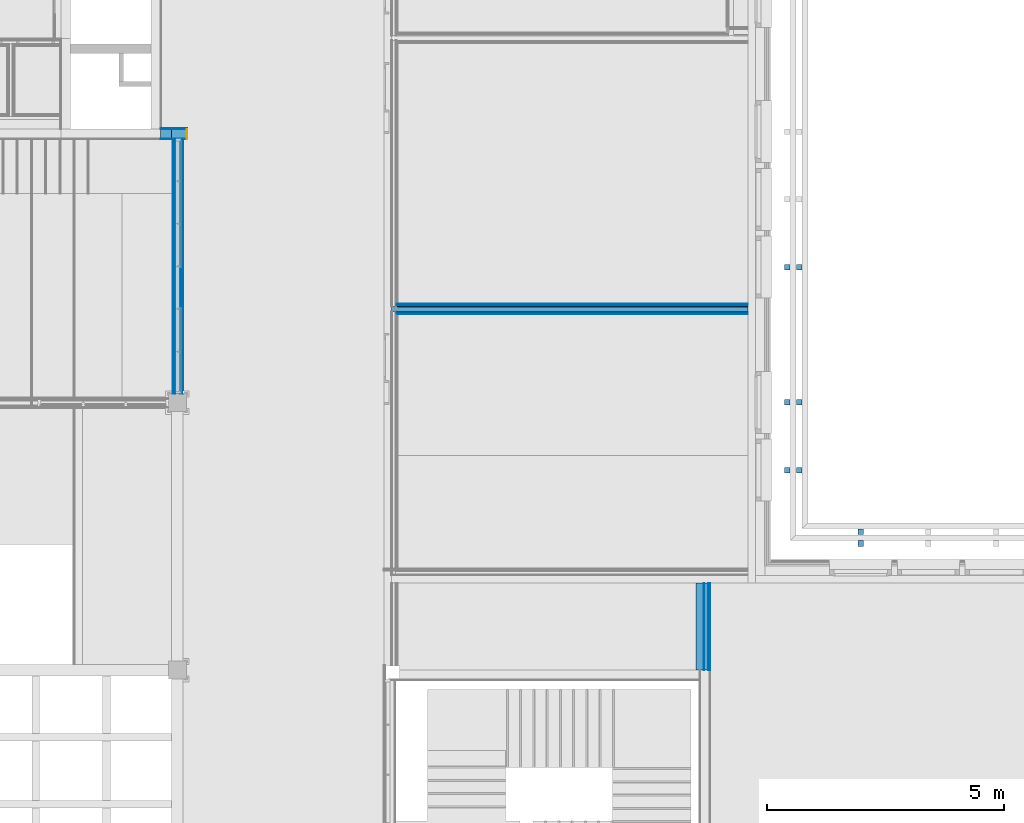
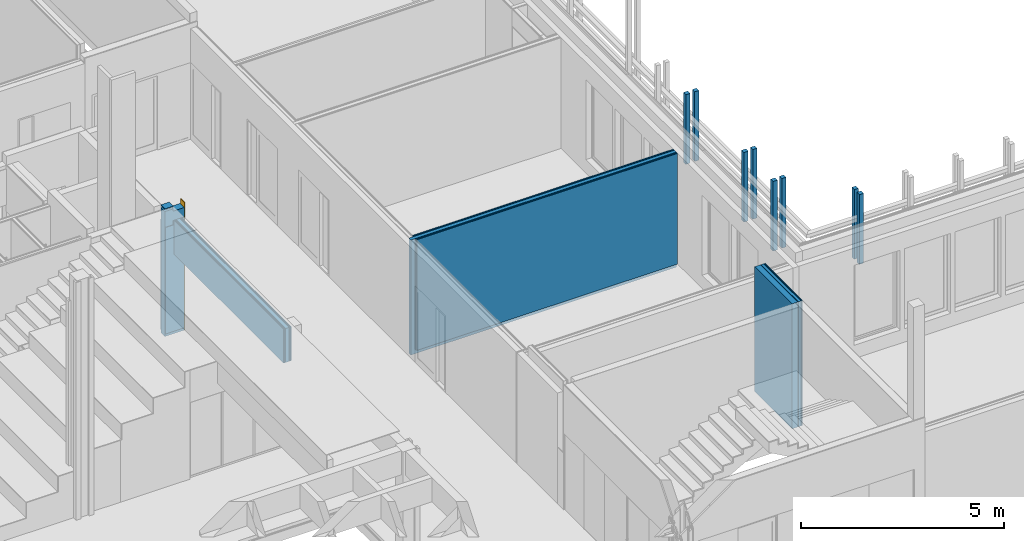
# One storey, part 97 of 139: 28 building element parts, 4 discrete accessories, 1 covering, 2 openings, 4 elements without a shape of their own.
"""IFC2X3 building model written with IfcOpenShell, lengths in millimetres."""

from ifc_helpers import new_model, entity, si_unit, converted_unit, derived_unit, money_unit, direction, frame, origin_with_axes, place, context, subcontext, project, spatial, faceted_brep, material, material_list, type_object, element, fill, aggregate, save


model = new_model("IFC2X3")

# Units and contexts
model_context = context("Model", 3, precision=0.01, world=origin_with_axes(), true_north=direction((0.0, 1.0)))
body_context = subcontext(model_context, "Body", "Model", "MODEL_VIEW")
ifc_project = project(units=[si_unit("LENGTHUNIT", "METRE", prefix="MILLI"), si_unit("AREAUNIT", "SQUARE_METRE"), si_unit("VOLUMEUNIT", "CUBIC_METRE"), converted_unit("PLANEANGLEUNIT", "DEGREE", entity("IfcPlaneAngleMeasure", 0.0174532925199), si_unit("PLANEANGLEUNIT", "RADIAN"), dimensions=[0, 0, 0, 0, 0, 0, 0]), money_unit("EUR"), converted_unit("TIMEUNIT", "Year", entity("IfcTimeMeasure", 31556926.0), si_unit("TIMEUNIT", "SECOND"), dimensions=[0, 0, 1, 0, 0, 0, 0]), si_unit("MASSUNIT", "GRAM", prefix="KILO"), si_unit("THERMODYNAMICTEMPERATUREUNIT", "DEGREE_CELSIUS"), si_unit("LUMINOUSINTENSITYUNIT", "LUMEN"), si_unit("ENERGYUNIT", "JOULE", prefix="MEGA"), derived_unit("THERMALCONDUCTANCEUNIT", [(si_unit("POWERUNIT", "WATT"), 1), (si_unit("LENGTHUNIT", "METRE"), -1), (si_unit("THERMODYNAMICTEMPERATUREUNIT", "KELVIN"), -1)]), derived_unit("SPECIFICHEATCAPACITYUNIT", [(si_unit("ENERGYUNIT", "JOULE"), 1), (si_unit("MASSUNIT", "GRAM", prefix="KILO"), -1), (si_unit("THERMODYNAMICTEMPERATUREUNIT", "KELVIN"), -1)]), derived_unit("MASSDENSITYUNIT", [(si_unit("MASSUNIT", "GRAM", prefix="KILO"), 1), (si_unit("VOLUMEUNIT", "CUBIC_METRE"), -1)])], contexts=[model_context])

# Site, building, storey
site_placement = place(None, origin_with_axes())
site = spatial("IfcSite", under=ifc_project, at=site_placement, Name="Kolde pst 67a", CompositionType="ELEMENT")
building_placement = place(site_placement, origin_with_axes())
building = spatial("IfcBuilding", under=site, at=building_placement, Name="Riigigümnaasium", CompositionType="ELEMENT")
storey_placement = place(building_placement, frame((0.0, 0.0, 4600.0), z_axis=(0.0, 0.0, 1.0), x_axis=(1.0, 0.0, 0.0)))
storey = spatial("IfcBuildingStorey", under=building, at=storey_placement, Name="2. korrus", CompositionType="ELEMENT", Elevation=4600.0)

# Covering
ifc_material_1 = material(Name="_VIIMISTLUSKIHT - viimistlus vastavalt SA osale")
covering_type = type_object("IfcCoveringType", Name="Returned End 25", PredefinedType="NOTDEFINED")
wall_4_placement = place(storey_placement, frame((48439.9854607, 45669.9999598, -80.0), z_axis=(0.0, 0.0, 1.0), x_axis=(-1.0, 0.0, 0.0)))
opening_2_placement = place(wall_4_placement, origin_with_axes())
covering_placement = place(opening_2_placement, frame((-7.5, 0.0, 0.0), z_axis=(0.0, 0.0, 1.0), x_axis=(1.0, 0.0, 0.0)))
covering = element("IfcCovering", 1, at=covering_placement, inside=storey, type_object=covering_type, material=ifc_material_1, Name="Pale", PredefinedType="NOTDEFINED", context=body_context, shape_type="Brep", body=[
    faceted_brep([(7.5, -200.0, 0.0), (22.5, -200.0, 0.0), (22.5, -200.0, 3830.0), (7.5, -200.0, 3830.0), (7.5, 15.0, 0.0), (22.5, 15.0, 0.0), (22.5, 15.0, 3830.0), (7.5, 15.0, 3830.0)], [[[0, 1, 2, 3]], [[4, 5, 1, 0]], [[5, 6, 2, 1]], [[6, 7, 3, 2]], [[7, 4, 0, 3]], [[4, 7, 6, 5]]]),
])

# Discrete accessories
ifc_material_2 = material(Name="_VÄLISVIIMISTLUS - sõrmjätkatud puitprussid 120x115mm, liitekohad vähemärgatavad, Platowood sõrmjätkatud kuusk või samaväärne; eeltöödeldud tuletõkkevõõbaga, tuletundlikkus B-s1, d0, Woodsafe Exterior WFX™ või samaväärne; kinnitused vastavalt EK osale")
ifc_material_list = material_list([ifc_material_2, ifc_material_2])
discrete_accessory_type = type_object("IfcDiscreteAccessoryType", Name="1+paiksekaitse 3 370 x 115")
for number, where, z_axis, x_axis in (
    (2, (62605.0448221, 37771.9921115, 2150.0), (0.0, 0.0, 1.0), (0.0, -1.0, 0.0)),
    (3, (61771.9937454, 43015.0013897, 2150.0), (0.0, 0.0, 1.0), (-1.0, 0.0, 0.0)),
    (4, (61771.9937454, 40155.0015421, 2150.0), (0.0, 0.0, 1.0), (-1.0, 0.0, 0.0)),
    (5, (61771.9937454, 38725.0015421, 2150.0), (0.0, 0.0, 1.0), (-1.0, 0.0, 0.0)),
):
    element("IfcDiscreteAccessory", number, at=place(storey_placement, frame(where, z_axis=z_axis, x_axis=x_axis)), inside=storey, type_object=discrete_accessory_type, material=ifc_material_list, Name="Päikesevarjestus", context=body_context, shape_type="Brep", body=[
        faceted_brep([(467.0, 117.5, 0.0), (347.0, 117.5, 0.0), (347.0, 117.5, 2090.0), (467.0, 117.5, 2090.0), (467.0, 2.5, 0.0), (347.0, 2.5, 0.0), (347.0, 2.5, 2090.0), (467.0, 2.5, 2090.0)], [[[0, 1, 2, 3]], [[0, 4, 5, 1]], [[1, 5, 6, 2]], [[3, 2, 6, 7]], [[4, 0, 3, 7]], [[5, 4, 7, 6]]]),
        faceted_brep([(717.0, 117.5, 0.0), (597.0, 117.5, 0.0), (597.0, 117.5, 2090.0), (717.0, 117.5, 2090.0), (717.0, 2.5, 0.0), (597.0, 2.5, 0.0), (597.0, 2.5, 2090.0), (717.0, 2.5, 2090.0)], [[[0, 1, 2, 3]], [[0, 4, 5, 1]], [[1, 5, 6, 2]], [[3, 2, 6, 7]], [[4, 0, 3, 7]], [[5, 4, 7, 6]]]),
    ])

# Wall, building element parts
wall_type_1 = type_object("IfcWallType", Name="SS-CLT-16/1_vill75+krohv 52 dB 300", PredefinedType="NOTDEFINED")
wall_1_placement = place(storey_placement, frame((59190.0132275, 36279.9996998, 0.0), z_axis=(0.0, 0.0, 1.0), x_axis=(0.0, -1.0, 0.0)))
wall_1 = element("IfcWall", 6, at=wall_1_placement, inside=storey, type_object=wall_type_1, Name="Sisesein")
building_element_part_1_placement = place(wall_1_placement, origin_with_axes())
building_element_part_1 = element("IfcBuildingElementPart", 7, at=building_element_part_1_placement, material=ifc_material_1, Name="_VIIMISTLUSKIHT - viimistlus vastavalt SA osale", context=body_context, shape_type="Brep", body=[
    faceted_brep([(1839.99972686, 300.0, 0.0), (1839.99972686, 290.0, 0.0), (0.0, 290.0, 0.0), (0.0, 300.0, 0.0), (1839.99972686, 300.0, 3750.0), (1839.99972686, 290.0, 3750.0), (0.0, 290.0, 3750.0), (0.0, 300.0, 3750.0)], [[[0, 1, 2, 3]], [[0, 4, 5, 1]], [[1, 5, 6, 2]], [[3, 2, 6, 7]], [[4, 0, 3, 7]], [[5, 4, 7, 6]]]),
])
ifc_material_3 = material(Name="_PLAATMATERJAL - tuletõkkekipsplaat, Knauf Red GKF või samaväärne")
building_element_part_2_placement = place(wall_1_placement, origin_with_axes())
building_element_part_2 = element("IfcBuildingElementPart", 8, at=building_element_part_2_placement, material=ifc_material_3, Name="_PLAATMATERJAL - tuletõkkekipsplaat, Knauf Red GKF või samaväärne", context=body_context, shape_type="Brep", body=[
    faceted_brep([(1839.99972686, 290.0, 0.0), (1839.99972686, 275.0, 0.0), (0.0, 275.0, 0.0), (0.0, 290.0, 0.0), (1839.99972686, 290.0, 3750.0), (1839.99972686, 275.0, 3750.0), (0.0, 275.0, 3750.0), (0.0, 290.0, 3750.0)], [[[0, 1, 2, 3]], [[0, 4, 5, 1]], [[1, 5, 6, 2]], [[3, 2, 6, 7]], [[4, 0, 3, 7]], [[5, 4, 7, 6]]]),
])
building_element_part_3_placement = place(wall_1_placement, origin_with_axes())
building_element_part_3 = element("IfcBuildingElementPart", 9, at=building_element_part_3_placement, material=ifc_material_3, Name="_PLAATMATERJAL - tuletõkkekipsplaat, Knauf Red GKF või samaväärne", context=body_context, shape_type="Brep", body=[
    faceted_brep([(1839.99972686, 275.0, 0.0), (1839.99972686, 260.0, 0.0), (0.0, 260.0, 0.0), (0.0, 275.0, 0.0), (1839.99972686, 275.0, 3750.0), (1839.99972686, 260.0, 3750.0), (0.0, 260.0, 3750.0), (0.0, 275.0, 3750.0)], [[[0, 1, 2, 3]], [[0, 4, 5, 1]], [[1, 5, 6, 2]], [[3, 2, 6, 7]], [[4, 0, 3, 7]], [[5, 4, 7, 6]]]),
])
ifc_material_4 = material(Name="_PLAATMATERJAL - OSB3 plaat")
building_element_part_4_placement = place(wall_1_placement, origin_with_axes())
building_element_part_4 = element("IfcBuildingElementPart", 10, at=building_element_part_4_placement, material=ifc_material_4, Name="_PLAATMATERJAL - OSB3 plaat", context=body_context, shape_type="Brep", body=[
    faceted_brep([(1839.99972686, 260.0, 0.0), (1839.99972686, 250.0, 0.0), (0.0, 250.0, 0.0), (0.0, 260.0, 0.0), (1839.99972686, 260.0, 3750.0), (1839.99972686, 250.0, 3750.0), (0.0, 250.0, 3750.0), (0.0, 260.0, 3750.0)], [[[0, 1, 2, 3]], [[0, 4, 5, 1]], [[1, 5, 6, 2]], [[3, 2, 6, 7]], [[4, 0, 3, 7]], [[5, 4, 7, 6]]]),
])
ifc_material_5 = material(Name="_KARKASS - metallkarkass CW 75/50/06 ja UW 75/40/06, samm 600, vahel mineraalvill, helineeldetegur αw = 1.0,  ISOVER ACOUSTIC 75mm või samaväärne")
building_element_part_5_placement = place(wall_1_placement, origin_with_axes())
building_element_part_5 = element("IfcBuildingElementPart", 11, at=building_element_part_5_placement, material=ifc_material_5, Name="_KARKASS - metallkarkass CW 75/50/06 ja UW 75/40/06, samm 600, vahel mineraalvill, helineeldetegur αw = 1.0,  ISOVER ACOUSTIC 75mm või samaväärne", context=body_context, shape_type="Brep", body=[
    faceted_brep([(1839.99972686, 250.0, 0.0), (1839.99972686, 175.0, 0.0), (0.0, 175.0, 0.0), (0.0, 250.0, 0.0), (1839.99972686, 250.0, 3750.0), (1839.99972686, 175.0, 3750.0), (0.0, 175.0, 3750.0), (0.0, 250.0, 3750.0)], [[[0, 1, 2, 3]], [[0, 4, 5, 1]], [[1, 5, 6, 2]], [[3, 2, 6, 7]], [[4, 0, 3, 7]], [[5, 4, 7, 6]]]),
])
ifc_material_6 = material(Name="_ÕHKVAHE")
building_element_part_6_placement = place(wall_1_placement, origin_with_axes())
building_element_part_6 = element("IfcBuildingElementPart", 12, at=building_element_part_6_placement, material=ifc_material_6, Name="_ÕHKVAHE", context=body_context, shape_type="Brep", body=[
    faceted_brep([(1839.99972686, 175.0, 0.0), (1839.99972686, 160.0, 0.0), (0.0, 160.0, 0.0), (0.0, 175.0, 0.0), (1839.99972686, 175.0, 3750.0), (1839.99972686, 160.0, 3750.0), (0.0, 160.0, 3750.0), (0.0, 175.0, 3750.0)], [[[0, 1, 2, 3]], [[0, 4, 5, 1]], [[1, 5, 6, 2]], [[3, 2, 6, 7]], [[4, 0, 3, 7]], [[5, 4, 7, 6]]]),
])
ifc_material_7 = material(Name="_KANDETARIND - CLT ristkihtliimpuit vastavalt EK osale, CLT paigaldusvuugid teibitakse ROTHOBLAAS teibiga")
building_element_part_7_placement = place(wall_1_placement, origin_with_axes())
building_element_part_7 = element("IfcBuildingElementPart", 13, at=building_element_part_7_placement, material=ifc_material_7, Name="_KANDETARIND - CLT ristkihtliimpuit vastavalt EK osale, CLT paigaldusvuugid teibitakse ROTHOBLAAS teibiga", context=body_context, shape_type="Brep", body=[
    faceted_brep([(0.0, 160.0, 0.0), (1839.99972686, 160.0, 0.0), (1839.99972686, 0.0, 0.0), (0.0, 0.0, 0.0), (0.0, 160.0, 3750.0), (1839.99972686, 160.0, 3750.0), (1839.99972686, 0.0, 3750.0), (0.0, 0.0, 3750.0)], [[[0, 1, 2, 3]], [[4, 5, 1, 0]], [[2, 1, 5, 6]], [[3, 2, 6, 7]], [[4, 0, 3, 7]], [[7, 6, 5, 4]]]),
])
aggregate(wall_1, [building_element_part_1, building_element_part_2, building_element_part_3, building_element_part_4, building_element_part_5, building_element_part_6, building_element_part_7])

wall_type_2 = type_object("IfcWallType", Name="SS-PK-10/4_vill100+2värv distantsliistudega 220", PredefinedType="NOTDEFINED")
wall_2_placement = place(storey_placement, frame((52589.9941222, 42180.2910276, -130.0), z_axis=(0.0, 0.0, 1.0), x_axis=(1.0, 0.0, 0.0)))
wall_2 = element("IfcWall", 14, at=wall_2_placement, inside=storey, type_object=wall_type_2, Name="Sisesein")
building_element_part_8_placement = place(wall_2_placement, origin_with_axes())
building_element_part_8 = element("IfcBuildingElementPart", 15, at=building_element_part_8_placement, material=ifc_material_1, Name="_VIIMISTLUSKIHT - viimistlus vastavalt SA osale", context=body_context, shape_type="Brep", body=[
    faceted_brep([(300.0, 0.0, 3450.0), (7690.0, 0.0, 3450.0), (7690.0, 0.0, 130.0), (300.0, 0.0, 130.0), (7690.0, -5.0, 3450.0), (300.0, -5.0, 3450.0), (7690.0, -5.0, 130.0), (300.0, -5.0, 130.0)], [[[0, 1, 2, 3]], [[4, 1, 0, 5]], [[1, 4, 6, 2]], [[3, 2, 6, 7]], [[5, 0, 3, 7]], [[4, 5, 7, 6]]]),
])
building_element_part_9_placement = place(wall_2_placement, origin_with_axes())
building_element_part_9 = element("IfcBuildingElementPart", 16, at=building_element_part_9_placement, material=ifc_material_3, Name="_PLAATMATERJAL - tuletõkkekipsplaat, Knauf Red GKF või samaväärne", context=body_context, shape_type="Brep", body=[
    faceted_brep([(290.0, -5.0, 3450.0), (7690.0, -5.0, 3450.0), (7690.0, -5.0, 127.0), (290.0, -5.0, 127.0), (7690.0, -20.0, 3450.0), (290.0, -20.0, 3450.0), (7690.0, -20.0, 127.0), (290.0, -20.0, 127.0)], [[[0, 1, 2, 3]], [[4, 1, 0, 5]], [[1, 4, 6, 2]], [[3, 2, 6, 7]], [[5, 0, 3, 7]], [[4, 5, 7, 6]]]),
])
building_element_part_10_placement = place(wall_2_placement, origin_with_axes())
building_element_part_10 = element("IfcBuildingElementPart", 17, at=building_element_part_10_placement, material=ifc_material_4, Name="_PLAATMATERJAL - OSB3 plaat", context=body_context, shape_type="Brep", body=[
    faceted_brep([(275.0, -20.0, 3450.0), (7690.0, -20.0, 3450.0), (7690.0, -20.0, 127.0), (275.0, -20.0, 127.0), (7690.0, -35.0, 3450.0), (275.0, -35.0, 3450.0), (7690.0, -35.0, 127.0), (275.0, -35.0, 127.0)], [[[0, 1, 2, 3]], [[4, 1, 0, 5]], [[1, 4, 6, 2]], [[3, 2, 6, 7]], [[5, 0, 3, 7]], [[4, 5, 7, 6]]]),
])
ifc_material_8 = material(Name="_KARKASS- distantasliist")
building_element_part_11_placement = place(wall_2_placement, origin_with_axes())
building_element_part_11 = element("IfcBuildingElementPart", 18, at=building_element_part_11_placement, material=ifc_material_8, Name="_KARKASS- distantasliist", context=body_context, shape_type="Brep", body=[
    faceted_brep([(275.0, -35.0, 3450.0), (7690.0, -35.0, 3450.0), (7690.0, -35.0, 127.0), (275.0, -35.0, 127.0), (7690.0, -60.0, 3450.0), (275.0, -60.0, 3450.0), (7690.0, -60.0, 127.0), (275.0, -60.0, 127.0)], [[[0, 1, 2, 3]], [[4, 1, 0, 5]], [[1, 4, 6, 2]], [[3, 2, 6, 7]], [[5, 0, 3, 7]], [[4, 5, 7, 6]]]),
])
ifc_material_9 = material(Name="_KARKASS - puitpruss 100x50mm vertikaalne, samm 600mm, vahel mineraalvill, helineeldetegur αw = 1.0, ISOVER ACOUSTIC 100mm või samaväärne")
building_element_part_12_placement = place(wall_2_placement, origin_with_axes())
building_element_part_12 = element("IfcBuildingElementPart", 19, at=building_element_part_12_placement, material=ifc_material_9, Name="_KARKASS - puitpruss 100x50mm vertikaalne, samm 600mm, vahel mineraalvill, helineeldetegur αw = 1.0, ISOVER ACOUSTIC 100mm või samaväärne", context=body_context, shape_type="Brep", body=[
    faceted_brep([(160.0, -60.0, 3450.0), (7690.0, -60.0, 3450.0), (7690.0, -60.0, 0.0), (160.0, -60.0, 0.0), (7690.0, -160.0, 3450.0), (160.0, -160.0, 3450.0), (7690.0, -160.0, 0.0), (160.0, -160.0, 0.0)], [[[0, 1, 2, 3]], [[4, 1, 0, 5]], [[1, 4, 6, 2]], [[2, 6, 7, 3]], [[5, 0, 3, 7]], [[4, 5, 7, 6]]]),
])
building_element_part_13_placement = place(wall_2_placement, origin_with_axes())
building_element_part_13 = element("IfcBuildingElementPart", 20, at=building_element_part_13_placement, material=ifc_material_8, Name="_KARKASS- distantasliist", context=body_context, shape_type="Brep", body=[
    faceted_brep([(275.0, -160.0, 3450.0), (7690.0, -160.0, 3450.0), (7690.0, -160.0, 127.0), (275.0, -160.0, 127.0), (7690.0, -185.0, 3450.0), (275.0, -185.0, 3450.0), (7690.0, -185.0, 127.0), (275.0, -185.0, 127.0)], [[[0, 1, 2, 3]], [[4, 1, 0, 5]], [[1, 4, 6, 2]], [[3, 2, 6, 7]], [[5, 0, 3, 7]], [[4, 5, 7, 6]]]),
])
building_element_part_14_placement = place(wall_2_placement, origin_with_axes())
building_element_part_14 = element("IfcBuildingElementPart", 21, at=building_element_part_14_placement, material=ifc_material_4, Name="_PLAATMATERJAL - OSB3 plaat", context=body_context, shape_type="Brep", body=[
    faceted_brep([(275.0, -185.0, 3450.0), (7690.0, -185.0, 3450.0), (7690.0, -185.0, 127.0), (275.0, -185.0, 127.0), (7690.0, -200.0, 3450.0), (275.0, -200.0, 3450.0), (7690.0, -200.0, 127.0), (275.0, -200.0, 127.0)], [[[0, 1, 2, 3]], [[4, 1, 0, 5]], [[1, 4, 6, 2]], [[3, 2, 6, 7]], [[5, 0, 3, 7]], [[4, 5, 7, 6]]]),
])
building_element_part_15_placement = place(wall_2_placement, origin_with_axes())
building_element_part_15 = element("IfcBuildingElementPart", 22, at=building_element_part_15_placement, material=ifc_material_3, Name="_PLAATMATERJAL - tuletõkkekipsplaat, Knauf Red GKF või samaväärne", context=body_context, shape_type="Brep", body=[
    faceted_brep([(290.0, -200.0, 3450.0), (7690.0, -200.0, 3450.0), (7690.0, -200.0, 127.0), (290.0, -200.0, 127.0), (7690.0, -215.0, 3450.0), (290.0, -215.0, 3450.0), (7690.0, -215.0, 127.0), (290.0, -215.0, 127.0)], [[[0, 1, 2, 3]], [[4, 1, 0, 5]], [[1, 4, 6, 2]], [[3, 2, 6, 7]], [[5, 0, 3, 7]], [[4, 5, 7, 6]]]),
])
building_element_part_16_placement = place(wall_2_placement, origin_with_axes())
building_element_part_16 = element("IfcBuildingElementPart", 23, at=building_element_part_16_placement, material=ifc_material_1, Name="_VIIMISTLUSKIHT - viimistlus vastavalt SA osale", context=body_context, shape_type="Brep", body=[
    faceted_brep([(300.0, -215.0, 3450.0), (7690.0, -215.0, 3450.0), (7690.0, -215.0, 130.0), (300.0, -215.0, 130.0), (7690.0, -220.0, 3450.0), (300.0, -220.0, 3450.0), (7690.0, -220.0, 130.0), (300.0, -220.0, 130.0)], [[[0, 1, 2, 3]], [[4, 1, 0, 5]], [[1, 4, 6, 2]], [[3, 2, 6, 7]], [[5, 0, 3, 7]], [[4, 5, 7, 6]]]),
])
aggregate(wall_2, [building_element_part_8, building_element_part_9, building_element_part_10, building_element_part_11, building_element_part_12, building_element_part_13, building_element_part_14, building_element_part_15, building_element_part_16])

# Wall, opening, building element parts
wall_type_3 = type_object("IfcWallType", Name="SS-PK-10/1_vill100+2dold 220", PredefinedType="NOTDEFINED")
wall_3_placement = place(storey_placement, frame((48129.9854632, 45669.9999531, 2300.0), z_axis=(0.0, 0.0, 1.0), x_axis=(0.0, -1.0, 0.0)))
wall_3 = element("IfcWall", 24, at=wall_3_placement, inside=storey, type_object=wall_type_3, Name="Sisesein")
opening_1_placement = place(wall_3_placement, frame((2699.99993534, 0.0, -2300.0), z_axis=(0.0, 0.0, 1.0), x_axis=(1.0, 0.0, 0.0)))
element("IfcOpeningElement", 25, at=opening_1_placement, cuts=wall_3, Name="Ava", context=body_context, shape_type="Brep", body=[
    faceted_brep([(2690.00010836, 440.0, 0.0), (2690.00010836, 440.0, 2300.0), (2690.00010836, -220.0, 2300.0), (2690.00010836, -220.0, 0.0), (-2690.00010836, 440.0, 0.0), (-2690.00010836, 440.0, 2300.0), (-2690.00010836, -220.0, 2300.0), (-2690.00010836, -220.0, 0.0)], [[[0, 1, 2, 3]], [[0, 4, 5, 1]], [[1, 5, 6, 2]], [[3, 2, 6, 7]], [[4, 0, 3, 7]], [[5, 4, 7, 6]]]),
])
ifc_material_10 = material(Name="_VIIMISTLUSKIHT - Dold plaat vastavalt SA osale")
building_element_part_17_placement = place(wall_3_placement, origin_with_axes())
building_element_part_17 = element("IfcBuildingElementPart", 26, at=building_element_part_17_placement, material=ifc_material_10, Name="_VIIMISTLUSKIHT - Dold plaat vastavalt SA osale", context=body_context, shape_type="Brep", body=[
    faceted_brep([(-6.78114275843e-06, 200.0, 1020.0), (-6.78114275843e-06, 220.0, 1020.0), (-6.78114275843e-06, 220.0, 0.0), (-6.78114275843e-06, 200.0, 0.0), (5390.00004306, 220.0, 1020.0), (5390.00004306, 200.0, 1020.0), (5390.00004306, 220.0, 0.0), (5390.00004306, 200.0, 0.0)], [[[0, 1, 2, 3]], [[4, 1, 0, 5]], [[1, 4, 6, 2]], [[7, 3, 2, 6]], [[5, 0, 3, 7]], [[4, 5, 7, 6]]]),
])
ifc_material_11 = material(Name="_KARKASS - eriprofiilkinnitus vastavalt sisemisele plaatviimistlusele")
building_element_part_18_placement = place(wall_3_placement, origin_with_axes())
building_element_part_18 = element("IfcBuildingElementPart", 27, at=building_element_part_18_placement, material=ifc_material_11, Name="_KARKASS - eriprofiilkinnitus vastavalt sisemisele plaatviimistlusele", context=body_context, shape_type="Brep", body=[
    faceted_brep([(-6.78114275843e-06, 190.0, 1020.0), (-6.78114275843e-06, 200.0, 1020.0), (-6.78114275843e-06, 200.0, 0.0), (-6.78114275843e-06, 190.0, 0.0), (5390.00004306, 200.0, 1020.0), (5390.00004306, 190.0, 1020.0), (5390.00004306, 200.0, 0.0), (5390.00004306, 190.0, 0.0)], [[[0, 1, 2, 3]], [[4, 1, 0, 5]], [[1, 4, 6, 2]], [[7, 3, 2, 6]], [[5, 0, 3, 7]], [[4, 5, 7, 6]]]),
])
building_element_part_19_placement = place(wall_3_placement, origin_with_axes())
building_element_part_19 = element("IfcBuildingElementPart", 28, at=building_element_part_19_placement, material=ifc_material_3, Name="_PLAATMATERJAL - tuletõkkekipsplaat, Knauf Red GKF või samaväärne", context=body_context, shape_type="Brep", body=[
    faceted_brep([(-6.78114275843e-06, 175.0, 1020.0), (-6.78114275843e-06, 190.0, 1020.0), (-6.78114275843e-06, 190.0, 0.0), (-6.78114275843e-06, 175.0, 0.0), (5390.00004306, 190.0, 1020.0), (5390.00004306, 175.0, 1020.0), (5390.00004306, 190.0, 0.0), (5390.00004306, 175.0, 0.0)], [[[0, 1, 2, 3]], [[4, 1, 0, 5]], [[1, 4, 6, 2]], [[7, 3, 2, 6]], [[5, 0, 3, 7]], [[4, 5, 7, 6]]]),
])
building_element_part_20_placement = place(wall_3_placement, origin_with_axes())
building_element_part_20 = element("IfcBuildingElementPart", 29, at=building_element_part_20_placement, material=ifc_material_3, Name="_PLAATMATERJAL - tuletõkkekipsplaat, Knauf Red GKF või samaväärne", context=body_context, shape_type="Brep", body=[
    faceted_brep([(-6.78114275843e-06, 160.0, 1020.0), (-6.78114275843e-06, 175.0, 1020.0), (-6.78114275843e-06, 175.0, 0.0), (-6.78114275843e-06, 160.0, 0.0), (5390.00004306, 175.0, 1020.0), (5390.00004306, 160.0, 1020.0), (5390.00004306, 175.0, 0.0), (5390.00004306, 160.0, 0.0)], [[[0, 1, 2, 3]], [[4, 1, 0, 5]], [[1, 4, 6, 2]], [[7, 3, 2, 6]], [[5, 0, 3, 7]], [[4, 5, 7, 6]]]),
])
building_element_part_21_placement = place(wall_3_placement, origin_with_axes())
building_element_part_21 = element("IfcBuildingElementPart", 30, at=building_element_part_21_placement, material=ifc_material_9, Name="_KARKASS - puitpruss 100x50mm vertikaalne, samm 600mm, vahel mineraalvill, helineeldetegur αw = 1.0, ISOVER ACOUSTIC 100mm või samaväärne", context=body_context, shape_type="Brep", body=[
    faceted_brep([(-6.78114275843e-06, 60.0, 1020.0), (-6.78114275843e-06, 160.0, 1020.0), (-6.78114275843e-06, 160.0, 0.0), (-6.78114275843e-06, 60.0, 0.0), (5390.00004306, 160.0, 1020.0), (5390.00004306, 60.0, 1020.0), (5390.00004306, 160.0, 0.0), (5390.00004306, 60.0, 0.0)], [[[0, 1, 2, 3]], [[4, 1, 0, 5]], [[1, 4, 6, 2]], [[7, 3, 2, 6]], [[5, 0, 3, 7]], [[4, 5, 7, 6]]]),
])
building_element_part_22_placement = place(wall_3_placement, origin_with_axes())
building_element_part_22 = element("IfcBuildingElementPart", 31, at=building_element_part_22_placement, material=ifc_material_3, Name="_PLAATMATERJAL - tuletõkkekipsplaat, Knauf Red GKF või samaväärne", context=body_context, shape_type="Brep", body=[
    faceted_brep([(-6.78114275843e-06, 45.0, 1020.0), (-6.78114275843e-06, 60.0, 1020.0), (-6.78114275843e-06, 60.0, 0.0), (-6.78114275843e-06, 45.0, 0.0), (5390.00004306, 60.0, 1020.0), (5390.00004306, 45.0, 1020.0), (5390.00004306, 60.0, 0.0), (5390.00004306, 45.0, 0.0)], [[[0, 1, 2, 3]], [[4, 1, 0, 5]], [[1, 4, 6, 2]], [[7, 3, 2, 6]], [[5, 0, 3, 7]], [[4, 5, 7, 6]]]),
])
building_element_part_23_placement = place(wall_3_placement, origin_with_axes())
building_element_part_23 = element("IfcBuildingElementPart", 32, at=building_element_part_23_placement, material=ifc_material_3, Name="_PLAATMATERJAL - tuletõkkekipsplaat, Knauf Red GKF või samaväärne", context=body_context, shape_type="Brep", body=[
    faceted_brep([(-6.78114275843e-06, 30.0, 1020.0), (-6.78114275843e-06, 45.0, 1020.0), (-6.78114275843e-06, 45.0, 0.0), (-6.78114275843e-06, 30.0, 0.0), (5390.00004306, 45.0, 1020.0), (5390.00004306, 30.0, 1020.0), (5390.00004306, 45.0, 0.0), (5390.00004306, 30.0, 0.0)], [[[0, 1, 2, 3]], [[4, 1, 0, 5]], [[1, 4, 6, 2]], [[7, 3, 2, 6]], [[5, 0, 3, 7]], [[4, 5, 7, 6]]]),
])
building_element_part_24_placement = place(wall_3_placement, origin_with_axes())
building_element_part_24 = element("IfcBuildingElementPart", 33, at=building_element_part_24_placement, material=ifc_material_11, Name="_KARKASS - eriprofiilkinnitus vastavalt sisemisele plaatviimistlusele", context=body_context, shape_type="Brep", body=[
    faceted_brep([(-6.78114275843e-06, 20.0, 1020.0), (-6.78114275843e-06, 30.0, 1020.0), (-6.78114275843e-06, 30.0, 0.0), (-6.78114275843e-06, 20.0, 0.0), (5390.00004306, 30.0, 1020.0), (5390.00004306, 20.0, 1020.0), (5390.00004306, 30.0, 0.0), (5390.00004306, 20.0, 0.0)], [[[0, 1, 2, 3]], [[4, 1, 0, 5]], [[1, 4, 6, 2]], [[7, 3, 2, 6]], [[5, 0, 3, 7]], [[4, 5, 7, 6]]]),
])
building_element_part_25_placement = place(wall_3_placement, origin_with_axes())
building_element_part_25 = element("IfcBuildingElementPart", 34, at=building_element_part_25_placement, material=ifc_material_10, Name="_VIIMISTLUSKIHT - Dold plaat vastavalt SA osale", context=body_context, shape_type="Brep", body=[
    faceted_brep([(-6.78114275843e-06, 0.0, 1020.0), (-6.78114275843e-06, 20.0, 1020.0), (-6.78114275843e-06, 20.0, 0.0), (-6.78114275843e-06, 0.0, 0.0), (5390.00004306, 20.0, 1020.0), (5390.00004306, 0.0, 1020.0), (5390.00004306, 20.0, 0.0), (5390.00004306, 0.0, 0.0)], [[[0, 1, 2, 3]], [[4, 1, 0, 5]], [[1, 4, 6, 2]], [[7, 3, 2, 6]], [[5, 0, 3, 7]], [[4, 5, 7, 6]]]),
])
aggregate(wall_3, [building_element_part_17, building_element_part_18, building_element_part_19, building_element_part_20, building_element_part_21, building_element_part_22, building_element_part_23, building_element_part_24, building_element_part_25])

# Wall, opening
wall_type_4 = type_object("IfcWallType", Name="SS-RB-20/2_+2 plaat 230", PredefinedType="NOTDEFINED")
wall_4 = element("IfcWall", 35, at=wall_4_placement, inside=storey, type_object=wall_type_4, Name="Sisesein")
opening_2 = element("IfcOpeningElement", 36, at=opening_2_placement, cuts=wall_4, Name="Pale", context=body_context, shape_type="Brep", body=[
    faceted_brep([(15.0, 15.0, 0.0), (0.0, 15.0, 0.0), (0.0, 15.0, 3830.0), (15.0, 15.0, 3830.0), (15.0, -200.0, 0.0), (0.0, -200.0, 0.0), (0.0, -200.0, 3830.0), (15.0, -200.0, 3830.0)], [[[0, 1, 2, 3]], [[0, 4, 5, 1]], [[1, 5, 6, 2]], [[3, 2, 6, 7]], [[4, 0, 3, 7]], [[5, 4, 7, 6]]]),
])

fill(opening_2, covering)

# Building element part
building_element_part_26_placement = place(wall_4_placement, origin_with_axes())
building_element_part_26 = element("IfcBuildingElementPart", 37, at=building_element_part_26_placement, material=ifc_material_1, Name="_VIIMISTLUSKIHT - viimistlus vastavalt SA osale", context=body_context, shape_type="Brep", body=[
    faceted_brep([(15.0, 15.0, 3400.0), (15.0, 0.0, 3400.0), (89.9999974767, 0.0, 3400.0), (89.9999974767, 15.0, 3400.0), (15.0, 0.0, 80.0), (15.0, 15.0, 80.0), (565.0, 0.0, 80.0), (565.0, 0.0, 3275.0), (330.000002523, 0.0, 3275.0), (330.000002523, 0.0, 3400.0), (309.999997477, 0.0, 3400.0), (309.999997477, 0.0, 2380.0), (89.9999974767, 0.0, 2380.0), (89.9999974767, 15.0, 2380.0), (309.999997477, 15.0, 2380.0), (309.999997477, 15.0, 3400.0), (330.000002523, 15.0, 3400.0), (330.000002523, 15.0, 3275.0), (565.0, 15.0, 3275.0), (565.0, 15.0, 80.0)], [[[0, 1, 2, 3]], [[4, 1, 0, 5]], [[1, 4, 6, 7, 8, 9, 10, 11, 12, 2]], [[2, 12, 13, 3]], [[5, 0, 3, 13, 14, 15, 16, 17, 18, 19]], [[4, 5, 19, 6]], [[7, 6, 19, 18]], [[7, 18, 17, 8]], [[9, 8, 17, 16]], [[10, 9, 16, 15]], [[15, 14, 11, 10]], [[13, 12, 11, 14]]]),
])

ifc_material_12 = material(Name="_KANDETARIND - monteeritav raudbetoon vastavalt EK osale")
building_element_part_27_placement = place(wall_4_placement, origin_with_axes())
building_element_part_27 = element("IfcBuildingElementPart", 38, at=building_element_part_27_placement, material=ifc_material_12, Name="_KANDETARIND - monteeritav raudbetoon vastavalt EK osale", context=body_context, shape_type="Brep", body=[
    faceted_brep([(15.0, 0.0, 3680.0), (15.0, -200.0, 3680.0), (330.000002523, -200.0, 3680.0), (330.000002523, 0.0, 3680.0), (15.0, -200.0, 0.0), (15.0, 0.0, 0.0), (565.0, -200.0, 0.0), (565.0, -200.0, 3750.0), (330.000002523, -200.0, 3750.0), (330.000002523, 0.0, 3750.0), (565.0, 0.0, 3750.0), (565.0, 0.0, 0.0)], [[[0, 1, 2, 3]], [[4, 1, 0, 5]], [[1, 4, 6, 7, 8, 2]], [[2, 8, 9, 3]], [[5, 0, 3, 9, 10, 11]], [[4, 5, 11, 6]], [[10, 7, 6, 11]], [[8, 7, 10, 9]]]),
    faceted_brep([(330.000002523, 0.0, 3830.0), (330.000002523, 0.0, 3800.0), (330.000002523, -200.0, 3800.0), (330.000002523, -200.0, 3830.0), (565.0, 0.0, 3830.0), (565.0, 0.0, 3800.0), (565.0, -200.0, 3800.0), (565.0, -200.0, 3830.0)], [[[0, 1, 2, 3]], [[1, 0, 4, 5]], [[2, 1, 5, 6]], [[2, 6, 7, 3]], [[0, 3, 7, 4]], [[7, 6, 5, 4]]]),
])

building_element_part_28_placement = place(wall_4_placement, origin_with_axes())
building_element_part_28 = element("IfcBuildingElementPart", 39, at=building_element_part_28_placement, material=ifc_material_1, Name="_VIIMISTLUSKIHT - viimistlus vastavalt SA osale", context=body_context, shape_type="Brep", body=[
    faceted_brep([(565.0, -215.0, 3400.0), (0.0, -215.0, 3400.0), (0.0, -215.0, 80.0), (565.0, -215.0, 80.0), (565.0, -200.0, 3400.0), (330.000002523, -200.0, 3400.0), (0.0, -200.0, 3400.0), (0.0, -200.0, 80.0), (565.0, -200.0, 80.0)], [[[0, 1, 2, 3]], [[1, 0, 4, 5, 6]], [[1, 6, 7, 2]], [[3, 2, 7, 8]], [[4, 0, 3, 8]], [[5, 4, 8, 7, 6]]]),
])

aggregate(wall_4, [building_element_part_26, building_element_part_27, building_element_part_28])

save(model, "model.ifc")
